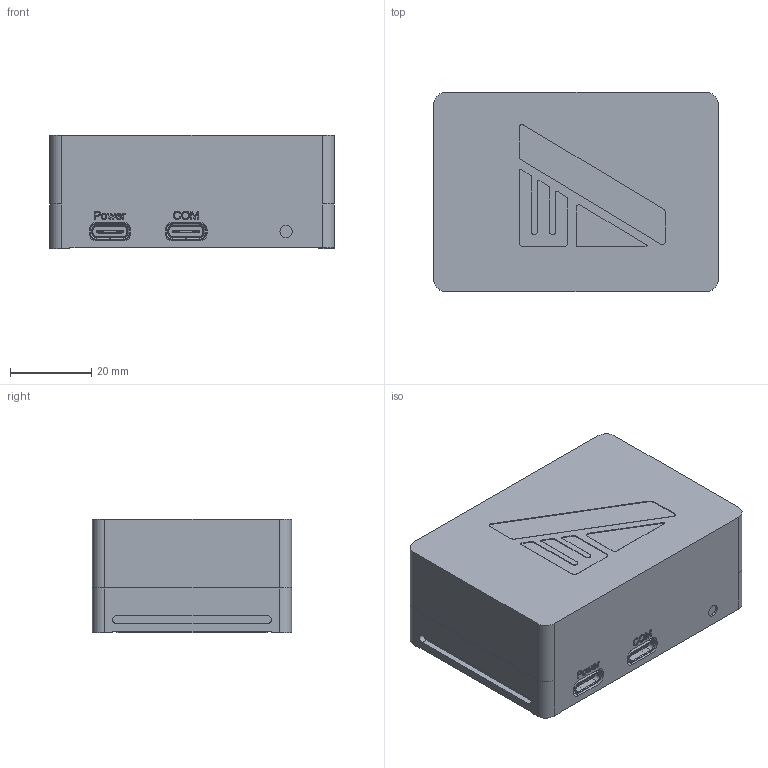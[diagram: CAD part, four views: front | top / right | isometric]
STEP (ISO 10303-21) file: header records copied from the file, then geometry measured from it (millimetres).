
FILE_DESCRIPTION(/* description */ ('Stand-Alone Seeder AlN Base'),/* implementation_level */ '2;1');
FILE_NAME(/* name */ 'HUMMINGBIRD-1030 MSTP__PN-000122.step',/* time_stamp */ '2025-06-12T16:17:28+02:00',/* author */ (''),/* organization */ (''),/* preprocessor_version */ 'ST-DEVELOPER v20.1',/* originating_system */ 'Autodesk Translation Framework v14.10.0.0',/* authorisation */ '');
FILE_SCHEMA (('AUTOMOTIVE_DESIGN { 1 0 10303 214 3 1 1 }'));
Length unit declared in the file: millimetre
Products named in the file (1): PN-000119 PRT
Bounding box: 70 x 49 x 27.9 mm (x, y, z)
Volume: 94278 mm3; surface area: 14302.8 mm2
Topology: 1 solids, 1 shells, 747 faces, 2072 edges, 1364 vertices
Faces by surface type: plane 453, cylinder 155, bspline 107, torus 24, cone 8
Full cylindrical faces by diameter (mm): 3 x1, 4 x1
Entity records: 24947 total; most frequent: CARTESIAN_POINT 6063, ORIENTED_EDGE 4144, DIRECTION 3558, EDGE_CURVE 2072, LINE 1488, VECTOR 1488, VERTEX_POINT 1364, AXIS2_PLACEMENT_3D 1035
